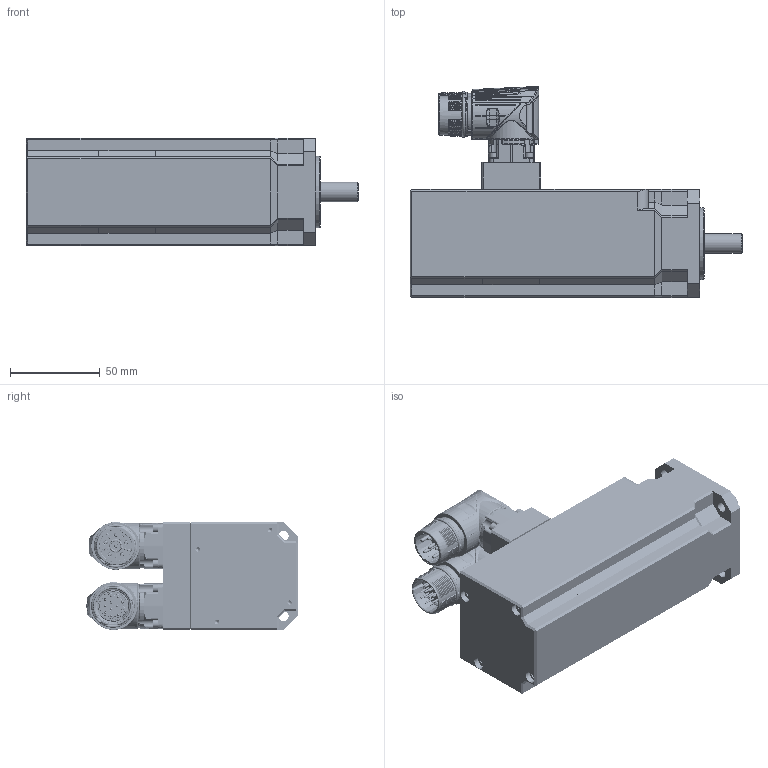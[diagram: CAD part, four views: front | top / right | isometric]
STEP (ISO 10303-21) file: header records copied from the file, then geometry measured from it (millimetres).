
FILE_DESCRIPTION(/* description */ (''),/* implementation_level */ '2;1');
FILE_NAME(/* name */ 'D:\InventorWorkspace2017\CAD\Projekte_EDEM\HLR\Konfigurator_V1\SMHA60601,4811S2I642.stp',/* time_stamp */ '2019-02-13T12:26:03+01:00',/* author */ ('544672'),/* organization */ (''),/* preprocessor_version */ 'ST-DEVELOPER v16.5',/* originating_system */ 'Autodesk Inventor 2017',/* authorisation */ '');
FILE_SCHEMA (('AUTOMOTIVE_DESIGN { 1 0 10303 214 3 1 1 }'));
Products named in the file (1): SMHA60451.4811S2I642
Bounding box: 184.5 x 117.33 x 60 mm (x, y, z)
Volume: 303643.8 mm3; surface area: 124226.7 mm2
Topology: 2 solids, 29 shells, 4412 faces, 11186 edges, 6858 vertices
Faces by surface type: cylinder 1346, bspline 1346, plane 917, torus 435, cone 235, sphere 133
Full cylindrical faces by diameter (mm): 0.8 x7, 1 x14, 1.18 x12, 1.2 x12, 1.4 x4, 1.9 x12, 2 x6, 2.15 x6, 2.2 x12, 2.459 x23, 3 x9, 3.1 x8, 3.167 x1, 3.2 x1, 3.5 x19, 4 x1, 4.333 x1, 4.5 x10, 5.5 x6, 5.9 x2, 6 x9, 6.5 x4, 11 x1, 12 x1, 15 x1, 17.4 x1, 19.16 x1, 20 x2, 21.6 x1, 22.5 x1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
Entity records: 261694 total; most frequent: CARTESIAN_POINT 159405, ORIENTED_EDGE 21184, DIRECTION 19185, EDGE_CURVE 10592, AXIS2_PLACEMENT_3D 8165, VERTEX_POINT 6697, EDGE_LOOP 4929, ADVANCED_FACE 4407
